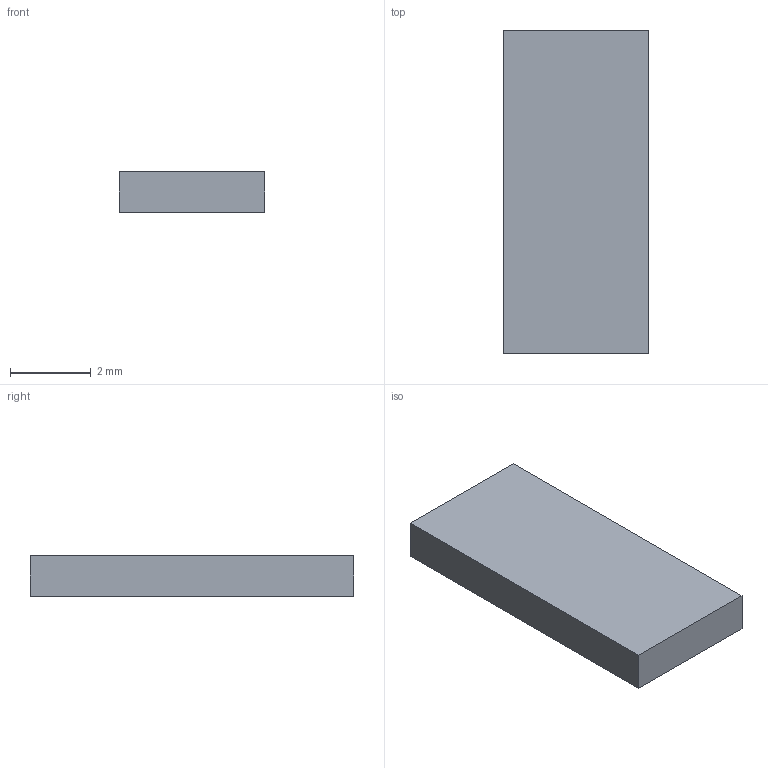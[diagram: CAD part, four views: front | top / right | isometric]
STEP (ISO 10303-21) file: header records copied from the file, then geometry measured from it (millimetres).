
FILE_DESCRIPTION(('Open CASCADE Model'),'2;1');
FILE_NAME('Open CASCADE Shape Model','2026-09-13T17:41:40',('Author'),( 'Open CASCADE'),'Open CASCADE STEP processor 7.8','Open CASCADE 7.8' ,'Unknown');
FILE_SCHEMA(('AUTOMOTIVE_DESIGN { 1 0 10303 214 1 1 1 1 }'));
Length unit declared in the file: millimetre
Products named in the file (1): Open CASCADE STEP translator 7.8 24
Bounding box: 3.6 x 8 x 1 mm (x, y, z)
Volume: 28.8 mm3; surface area: 80.8 mm2
Topology: 1 solids, 1 shells, 6 faces, 12 edges, 8 vertices
Faces by surface type: plane 6
Entity records: 322 total; most frequent: CARTESIAN_POINT 51, DIRECTION 50, LINE 36, VECTOR 36, ORIENTED_EDGE 24, PCURVE 24, DEFINITIONAL_REPRESENTATION 24, EDGE_CURVE 12
